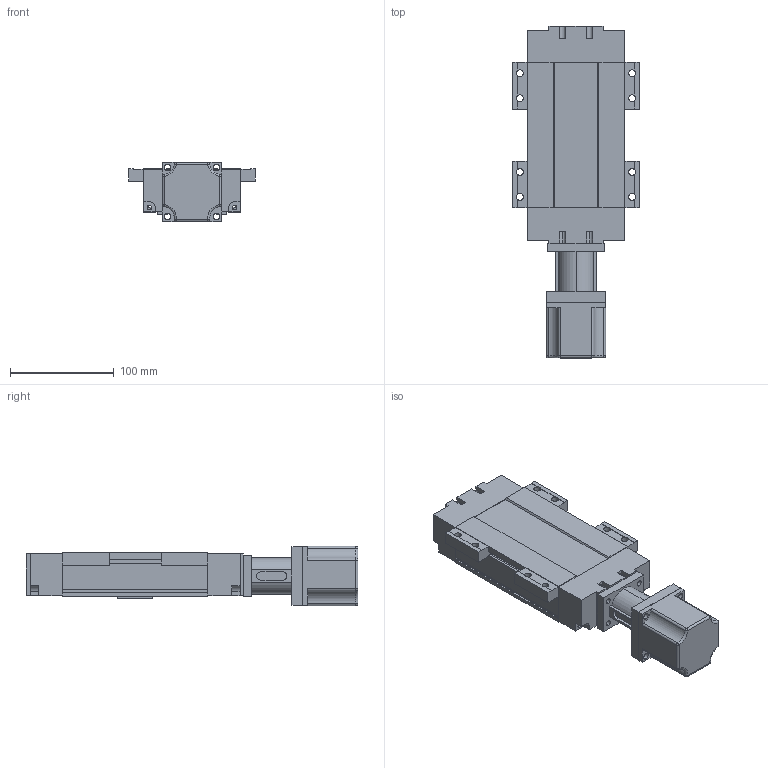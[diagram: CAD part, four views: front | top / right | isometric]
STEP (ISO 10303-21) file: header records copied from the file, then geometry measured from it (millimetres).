
FILE_DESCRIPTION (( 'STEP AP203' ), '1' );
FILE_NAME ('MSY94B设计样例.STEP', '2013-11-02T03:29:04', ( '微软用户' ), ( '微软中国' ), 'SwSTEP 2.0', 'SolidWorks 2010', '' );
FILE_SCHEMA (( 'CONFIG_CONTROL_DESIGN' ));
Length unit declared in the file: millimetre
Products named in the file (1): MSY94B扢數欴瞰
Bounding box: 122 x 319.5 x 57 mm (x, y, z)
Volume: 931875.1 mm3; surface area: 158897 mm2
Topology: 1 solids, 2 shells, 483 faces, 1337 edges, 848 vertices
Faces by surface type: plane 310, cylinder 145, cone 16, sphere 8, torus 4
Entity records: 15300 total; most frequent: CARTESIAN_POINT 2645, ORIENTED_EDGE 2626, DIRECTION 2607, EDGE_CURVE 1313, VECTOR 987, LINE 987, VERTEX_POINT 848, AXIS2_PLACEMENT_3D 810
